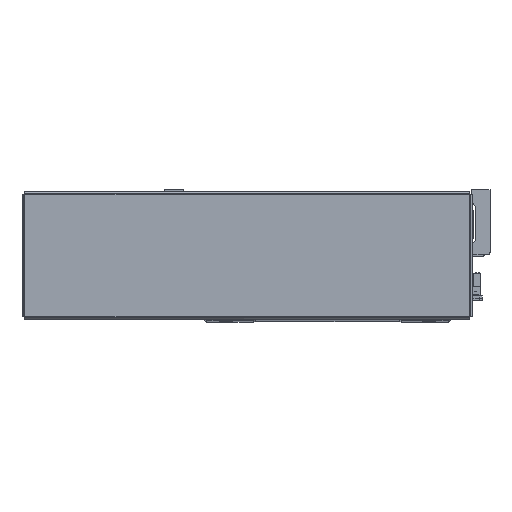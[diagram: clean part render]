
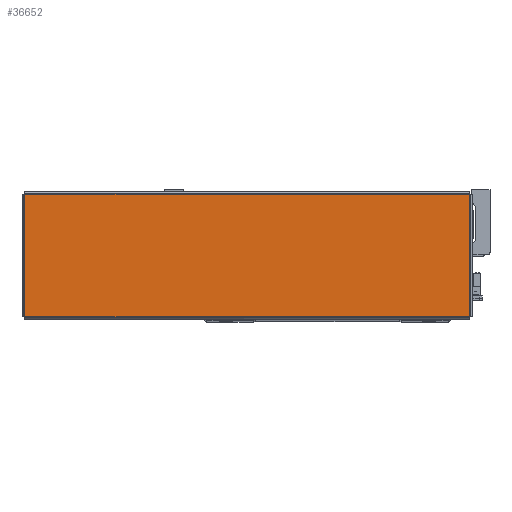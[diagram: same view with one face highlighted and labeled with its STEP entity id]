
A CAD part, top view. The second image highlights one B-rep face of the part: STEP entity #36652.
In plain terms, the highlighted planar face has unit normal (0, 0, 1) as drawn and (0, -1, 0) by its records, which use the part's own axes.
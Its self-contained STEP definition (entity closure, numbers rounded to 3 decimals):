
#1382 = CARTESIAN_POINT ( 'NONE',  ( 154.013, -1.2, 42.263 ) ) ;
#1407 = CARTESIAN_POINT ( 'NONE',  ( -154.013, -1.2, -42.263 ) ) ;
#1439 = CARTESIAN_POINT ( 'NONE',  ( 154.013, -1.2, -42.263 ) ) ;
#1474 = CARTESIAN_POINT ( 'NONE',  ( -154.013, -1.2, 42.263 ) ) ;
#3565 = AXIS2_PLACEMENT_3D ( 'NONE', #18306, #18313, #18302 ) ;
#14902 = DIRECTION ( 'NONE',  ( -1., 0., 0. ) ) ;
#14929 = CARTESIAN_POINT ( 'NONE',  ( 154.043, -1.2, 42.263 ) ) ;
#14980 = CARTESIAN_POINT ( 'NONE',  ( 154.013, -1.2, -42.293 ) ) ;
#14993 = DIRECTION ( 'NONE',  ( 1., 0., 0. ) ) ;
#15010 = CARTESIAN_POINT ( 'NONE',  ( -154.043, -1.2, -42.263 ) ) ;
#15044 = DIRECTION ( 'NONE',  ( 0., 0., 1. ) ) ;
#18285 = PLANE ( 'NONE',  #3565 ) ;
#18302 = DIRECTION ( 'NONE',  ( 0., 0., 1. ) ) ;
#18306 = CARTESIAN_POINT ( 'NONE',  ( 0., -1.2, 0. ) ) ;
#18313 = DIRECTION ( 'NONE',  ( 0., 1., 0. ) ) ;
#19474 = FACE_OUTER_BOUND ( 'NONE', #27540, .T. ) ;
#27540 = EDGE_LOOP ( 'NONE', ( #40003, #40076, #40022, #39982 ) ) ;
#33149 = EDGE_CURVE ( 'NONE', #43755, #43696, #35796, .T. ) ;
#33186 = EDGE_CURVE ( 'NONE', #43699, #43755, #35856, .T. ) ;
#33211 = EDGE_CURVE ( 'NONE', #43696, #43741, #35885, .T. ) ;
#33221 = EDGE_CURVE ( 'NONE', #43741, #43699, #35924, .T. ) ;
#35771 = VECTOR ( 'NONE', #38987, 1000. ) ;
#35796 = LINE ( 'NONE', #38986, #35771 ) ;
#35853 = VECTOR ( 'NONE', #14902, 1000. ) ;
#35856 = LINE ( 'NONE', #14929, #35853 ) ;
#35864 = VECTOR ( 'NONE', #14993, 1000. ) ;
#35885 = LINE ( 'NONE', #15010, #35864 ) ;
#35924 = LINE ( 'NONE', #14980, #35926 ) ;
#35926 = VECTOR ( 'NONE', #15044, 1000. ) ;
#36652 = ADVANCED_FACE ( 'NONE', ( #19474 ), #18285, .F. ) ;
#38986 = CARTESIAN_POINT ( 'NONE',  ( -154.013, -1.2, 42.293 ) ) ;
#38987 = DIRECTION ( 'NONE',  ( 0., 0., -1. ) ) ;
#39982 = ORIENTED_EDGE ( 'NONE', *, *, #33211, .T. ) ;
#40003 = ORIENTED_EDGE ( 'NONE', *, *, #33221, .T. ) ;
#40022 = ORIENTED_EDGE ( 'NONE', *, *, #33149, .T. ) ;
#40076 = ORIENTED_EDGE ( 'NONE', *, *, #33186, .T. ) ;
#43696 = VERTEX_POINT ( 'NONE', #1407 ) ;
#43699 = VERTEX_POINT ( 'NONE', #1382 ) ;
#43741 = VERTEX_POINT ( 'NONE', #1439 ) ;
#43755 = VERTEX_POINT ( 'NONE', #1474 ) ;
